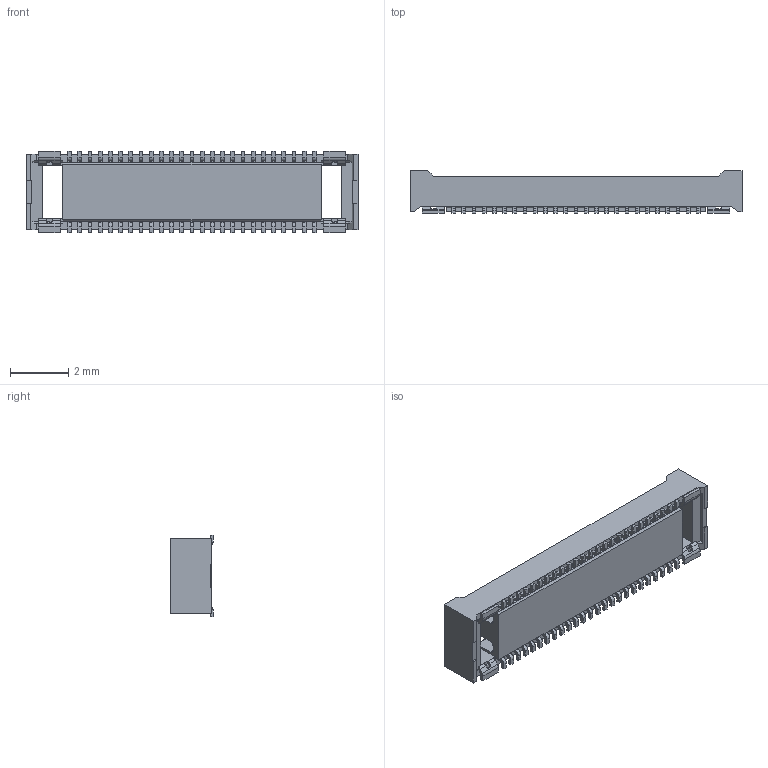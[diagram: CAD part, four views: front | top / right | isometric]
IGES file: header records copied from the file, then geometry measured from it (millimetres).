
Start section: SolidWorks IGES file using analytic representation for surfaces
Global section: file name: C:\3dwork\fukushima\001-1 NOVA35 量産モデル【小芯数&ハイト追加】\3Dmodel\50P\20843-050E-01-RECE ASS'Y 3Dmodel IGES.IGS; native system: SolidWorks 2017; preprocessor: SolidWorks 2017; author: ipxcad-014; date: 180607.144756; units: millimetre
Bounding box: 11.4 x 1.46 x 2.8 mm (x, y, z)
Surface area: 140 mm2 (no closed solid volume)
Topology: 0 solids, 0 shells, 615 faces, 3920 edges, 3920 vertices
Faces by surface type: bspline 477, revolution 138
